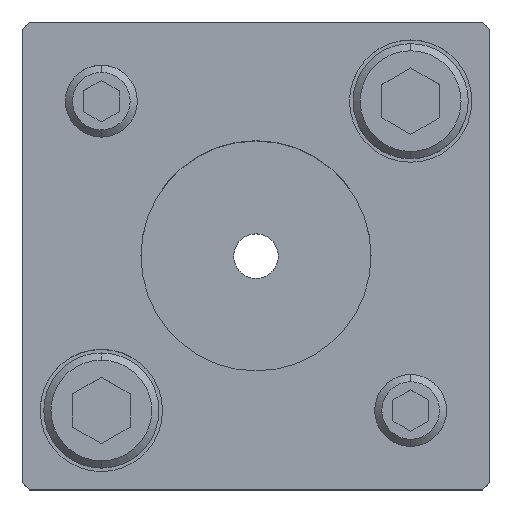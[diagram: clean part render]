
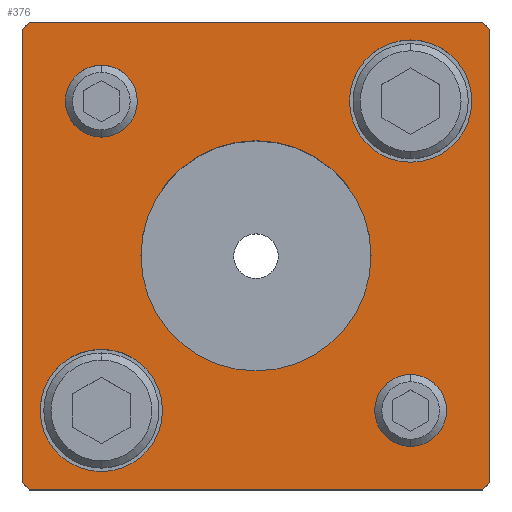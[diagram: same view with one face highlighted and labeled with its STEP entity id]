
A CAD part, top view. The second image highlights one B-rep face of the part: STEP entity #376.
In plain terms, the highlighted planar face has unit normal (0, 0, 1).
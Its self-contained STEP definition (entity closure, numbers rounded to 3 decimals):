
#139=PLANE('',#2852);
#200=FACE_BOUND('',#707,.T.);
#201=FACE_BOUND('',#708,.T.);
#202=FACE_BOUND('',#709,.T.);
#203=FACE_BOUND('',#710,.T.);
#204=FACE_BOUND('',#711,.T.);
#205=FACE_BOUND('',#712,.T.);
#376=ADVANCED_FACE('',(#200,#201,#202,#203,#204,#205),#139,.T.);
#707=EDGE_LOOP('',(#1263,#1264,#1265,#1266,#1267,#1268,#1269,#1270));
#708=EDGE_LOOP('',(#1271,#1272));
#709=EDGE_LOOP('',(#1273,#1274));
#710=EDGE_LOOP('',(#1275,#1276));
#711=EDGE_LOOP('',(#1277,#1278));
#712=EDGE_LOOP('',(#1279,#1280));
#881=CIRCLE('',#2822,5.);
#883=CIRCLE('',#2825,5.);
#885=CIRCLE('',#2828,5.);
#887=CIRCLE('',#2831,5.);
#897=CIRCLE('',#2846,8.5);
#898=CIRCLE('',#2847,8.5);
#899=CIRCLE('',#2848,8.5);
#900=CIRCLE('',#2849,8.5);
#901=CIRCLE('',#2850,16.);
#902=CIRCLE('',#2851,16.);
#1263=ORIENTED_EDGE('',*,*,#2069,.T.);
#1264=ORIENTED_EDGE('',*,*,#2070,.T.);
#1265=ORIENTED_EDGE('',*,*,#2071,.T.);
#1266=ORIENTED_EDGE('',*,*,#2072,.T.);
#1267=ORIENTED_EDGE('',*,*,#2073,.T.);
#1268=ORIENTED_EDGE('',*,*,#2074,.T.);
#1269=ORIENTED_EDGE('',*,*,#2075,.T.);
#1270=ORIENTED_EDGE('',*,*,#2076,.T.);
#1271=ORIENTED_EDGE('',*,*,#2077,.F.);
#1272=ORIENTED_EDGE('',*,*,#2078,.F.);
#1273=ORIENTED_EDGE('',*,*,#2079,.F.);
#1274=ORIENTED_EDGE('',*,*,#2080,.F.);
#1275=ORIENTED_EDGE('',*,*,#2055,.F.);
#1276=ORIENTED_EDGE('',*,*,#2051,.F.);
#1277=ORIENTED_EDGE('',*,*,#2049,.F.);
#1278=ORIENTED_EDGE('',*,*,#2045,.F.);
#1279=ORIENTED_EDGE('',*,*,#2081,.T.);
#1280=ORIENTED_EDGE('',*,*,#2082,.T.);
#1763=VERTEX_POINT('',#4143);
#1764=VERTEX_POINT('',#4144);
#1767=VERTEX_POINT('',#4155);
#1768=VERTEX_POINT('',#4156);
#1779=VERTEX_POINT('',#4191);
#1780=VERTEX_POINT('',#4192);
#1781=VERTEX_POINT('',#4194);
#1782=VERTEX_POINT('',#4196);
#1783=VERTEX_POINT('',#4198);
#1784=VERTEX_POINT('',#4200);
#1785=VERTEX_POINT('',#4202);
#1786=VERTEX_POINT('',#4204);
#1787=VERTEX_POINT('',#4207);
#1788=VERTEX_POINT('',#4208);
#1789=VERTEX_POINT('',#4211);
#1790=VERTEX_POINT('',#4212);
#1791=VERTEX_POINT('',#4215);
#1792=VERTEX_POINT('',#4216);
#2045=EDGE_CURVE('',#1763,#1764,#881,.T.);
#2049=EDGE_CURVE('',#1764,#1763,#883,.T.);
#2051=EDGE_CURVE('',#1767,#1768,#885,.T.);
#2055=EDGE_CURVE('',#1768,#1767,#887,.T.);
#2069=EDGE_CURVE('',#1779,#1780,#2347,.T.);
#2070=EDGE_CURVE('',#1780,#1781,#2348,.T.);
#2071=EDGE_CURVE('',#1781,#1782,#2349,.T.);
#2072=EDGE_CURVE('',#1782,#1783,#2350,.T.);
#2073=EDGE_CURVE('',#1783,#1784,#2351,.T.);
#2074=EDGE_CURVE('',#1784,#1785,#2352,.T.);
#2075=EDGE_CURVE('',#1785,#1786,#2353,.T.);
#2076=EDGE_CURVE('',#1786,#1779,#2354,.T.);
#2077=EDGE_CURVE('',#1787,#1788,#897,.T.);
#2078=EDGE_CURVE('',#1788,#1787,#898,.T.);
#2079=EDGE_CURVE('',#1789,#1790,#899,.T.);
#2080=EDGE_CURVE('',#1790,#1789,#900,.T.);
#2081=EDGE_CURVE('',#1791,#1792,#901,.T.);
#2082=EDGE_CURVE('',#1792,#1791,#902,.T.);
#2347=LINE('',#4190,#2563);
#2348=LINE('',#4193,#2564);
#2349=LINE('',#4195,#2565);
#2350=LINE('',#4197,#2566);
#2351=LINE('',#4199,#2567);
#2352=LINE('',#4201,#2568);
#2353=LINE('',#4203,#2569);
#2354=LINE('',#4205,#2570);
#2563=VECTOR('',#3379,1.);
#2564=VECTOR('',#3380,1.);
#2565=VECTOR('',#3381,1.);
#2566=VECTOR('',#3382,1.);
#2567=VECTOR('',#3383,1.);
#2568=VECTOR('',#3384,1.);
#2569=VECTOR('',#3385,1.);
#2570=VECTOR('',#3386,1.);
#2822=AXIS2_PLACEMENT_3D('',#4142,#3323,#3324);
#2825=AXIS2_PLACEMENT_3D('',#4151,#3331,#3332);
#2828=AXIS2_PLACEMENT_3D('',#4154,#3337,#3338);
#2831=AXIS2_PLACEMENT_3D('',#4163,#3345,#3346);
#2846=AXIS2_PLACEMENT_3D('',#4206,#3387,#3388);
#2847=AXIS2_PLACEMENT_3D('',#4209,#3389,#3390);
#2848=AXIS2_PLACEMENT_3D('',#4210,#3391,#3392);
#2849=AXIS2_PLACEMENT_3D('',#4213,#3393,#3394);
#2850=AXIS2_PLACEMENT_3D('',#4214,#3395,#3396);
#2851=AXIS2_PLACEMENT_3D('',#4217,#3397,#3398);
#2852=AXIS2_PLACEMENT_3D('',#4218,#3399,#3400);
#3323=DIRECTION('',(0.,0.,1.));
#3324=DIRECTION('',(1.,0.,0.));
#3331=DIRECTION('',(0.,0.,1.));
#3332=DIRECTION('',(-1.,0.,0.));
#3337=DIRECTION('',(0.,0.,1.));
#3338=DIRECTION('',(1.,0.,0.));
#3345=DIRECTION('',(0.,0.,1.));
#3346=DIRECTION('',(-1.,0.,0.));
#3379=DIRECTION('',(1.,0.,0.));
#3380=DIRECTION('',(0.707,0.707,0.));
#3381=DIRECTION('',(0.,1.,0.));
#3382=DIRECTION('',(-0.707,0.707,0.));
#3383=DIRECTION('',(-1.,0.,0.));
#3384=DIRECTION('',(-0.707,-0.707,0.));
#3385=DIRECTION('',(0.,-1.,0.));
#3386=DIRECTION('',(0.707,-0.707,0.));
#3387=DIRECTION('',(0.,0.,1.));
#3388=DIRECTION('',(1.,0.,0.));
#3389=DIRECTION('',(0.,0.,1.));
#3390=DIRECTION('',(-1.,0.,0.));
#3391=DIRECTION('',(0.,0.,1.));
#3392=DIRECTION('',(1.,0.,0.));
#3393=DIRECTION('',(0.,0.,1.));
#3394=DIRECTION('',(-1.,0.,0.));
#3395=DIRECTION('',(0.,0.,-1.));
#3396=DIRECTION('',(-1.,0.,0.));
#3397=DIRECTION('',(0.,0.,-1.));
#3398=DIRECTION('',(1.,0.,0.));
#3399=DIRECTION('',(0.,0.,1.));
#3400=DIRECTION('',(-1.,0.,0.));
#4142=CARTESIAN_POINT('',(21.5,-21.5,35.));
#4143=CARTESIAN_POINT('',(21.5,-16.5,35.));
#4144=CARTESIAN_POINT('',(21.5,-26.5,35.));
#4151=CARTESIAN_POINT('',(21.5,-21.5,35.));
#4154=CARTESIAN_POINT('',(-21.5,21.5,35.));
#4155=CARTESIAN_POINT('',(-21.5,26.5,35.));
#4156=CARTESIAN_POINT('',(-21.5,16.5,35.));
#4163=CARTESIAN_POINT('',(-21.5,21.5,35.));
#4190=CARTESIAN_POINT('',(31.5,-32.5,35.));
#4191=CARTESIAN_POINT('',(-31.5,-32.5,35.));
#4192=CARTESIAN_POINT('',(31.5,-32.5,35.));
#4193=CARTESIAN_POINT('',(32.5,-31.5,35.));
#4194=CARTESIAN_POINT('',(32.5,-31.5,35.));
#4195=CARTESIAN_POINT('',(32.5,31.5,35.));
#4196=CARTESIAN_POINT('',(32.5,31.5,35.));
#4197=CARTESIAN_POINT('',(31.5,32.5,35.));
#4198=CARTESIAN_POINT('',(31.5,32.5,35.));
#4199=CARTESIAN_POINT('',(-31.5,32.5,35.));
#4200=CARTESIAN_POINT('',(-31.5,32.5,35.));
#4201=CARTESIAN_POINT('',(-32.5,31.5,35.));
#4202=CARTESIAN_POINT('',(-32.5,31.5,35.));
#4203=CARTESIAN_POINT('',(-32.5,-31.5,35.));
#4204=CARTESIAN_POINT('',(-32.5,-31.5,35.));
#4205=CARTESIAN_POINT('',(-32.5,-31.5,35.));
#4206=CARTESIAN_POINT('',(-21.5,-21.5,35.));
#4207=CARTESIAN_POINT('',(-21.5,-13.,35.));
#4208=CARTESIAN_POINT('',(-21.5,-30.,35.));
#4209=CARTESIAN_POINT('',(-21.5,-21.5,35.));
#4210=CARTESIAN_POINT('',(21.5,21.5,35.));
#4211=CARTESIAN_POINT('',(21.5,30.,35.));
#4212=CARTESIAN_POINT('',(21.5,13.,35.));
#4213=CARTESIAN_POINT('',(21.5,21.5,35.));
#4214=CARTESIAN_POINT('',(0.,0.,35.));
#4215=CARTESIAN_POINT('',(0.,16.,35.));
#4216=CARTESIAN_POINT('',(0.,-16.,35.));
#4217=CARTESIAN_POINT('',(0.,0.,35.));
#4218=CARTESIAN_POINT('',(-31.5,-32.5,35.));
